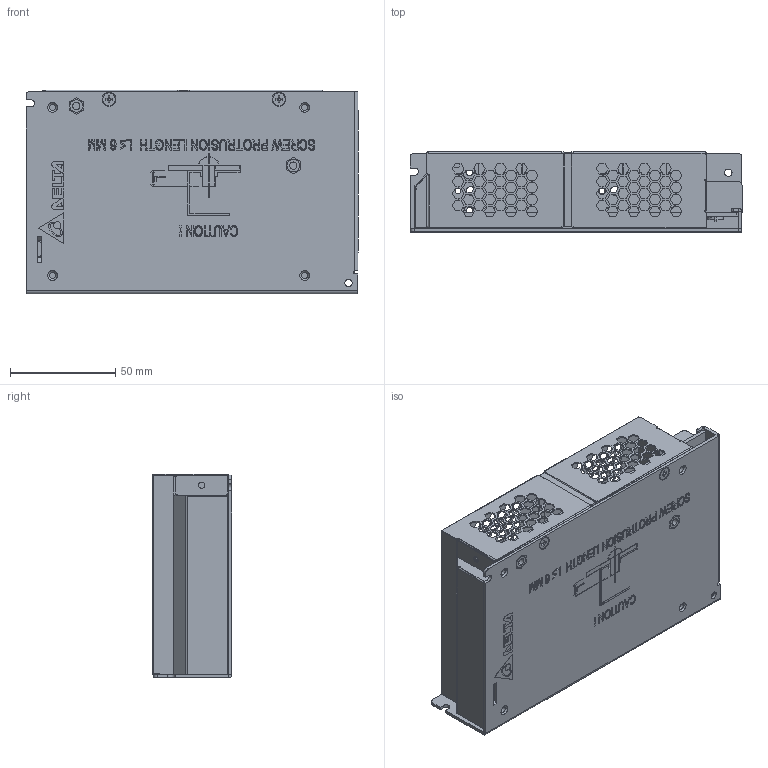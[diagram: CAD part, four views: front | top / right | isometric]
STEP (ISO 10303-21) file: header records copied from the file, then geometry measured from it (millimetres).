
FILE_DESCRIPTION((''),'2;1');
FILE_NAME('PMH-24V100WCCS_ASM_1_ASM','2018-05-28T',('warud'),(''),'PRO/ENGINEER BY PARAMETRIC TECHNOLOGY CORPORATION, 2010180','PRO/ENGINEER BY PARAMETRIC TECHNOLOGY CORPORATION, 2010180','');
FILE_SCHEMA(('CONFIG_CONTROL_DESIGN','SHAPE_APPEARANCE_LAYERS_GROUPS'));
Products named in the file (15): PWB_MAIN_1; 307049757W_A_BODY_1_1; 307049757W_A_SCREW_1_1; 307049757W_ASM_4_ASM_1_ASM; EE_VR550_2_1; EE_LED350_1_1; 3123303900_LED_HOLDER_3_1; ASSY_PWB_PMH-24V100WCCS_ASM_1_ASM; 3105318100_8_1; 330DTXXXXX_CHASSIS_35_1; 330304670103_A_STUD_4_1; 330323340101_ASM_13_ASM_1_ASM; 330300560101_21_1; 3262038604_4_1; PMH-24V100WCCS_ASM_1_ASM
Assembly tree (24 placements, depth 4):
  PMH-24V100WCCS_ASM_1_ASM
    ASSY_PWB_PMH-24V100WCCS_ASM_1_ASM
      PWB_MAIN_1
      307049757W_ASM_4_ASM_1_ASM
        307049757W_A_BODY_1_1
        307049757W_A_SCREW_1_1  x7
      EE_VR550_2_1
      EE_LED350_1_1
      3123303900_LED_HOLDER_3_1
    3105318100_8_1  x4
    330323340101_ASM_13_ASM_1_ASM
      330DTXXXXX_CHASSIS_35_1
      330304670103_A_STUD_4_1  x2
    330300560101_21_1
    3262038604_4_1
Bounding box: 158 x 38.07 x 97 mm (x, y, z)
Volume: 75909.9 mm3; surface area: 127755.3 mm2
Topology: 21 solids, 21 shells, 5780 faces, 16028 edges, 10130 vertices
Faces by surface type: plane 4234, cylinder 595, bspline 428, extrusion 369, cone 124, torus 28, sphere 2
Entity records: 172302 total; most frequent: CARTESIAN_POINT 38913, ORIENTED_EDGE 27620, DIRECTION 22864, EDGE_CURVE 13810, VECTOR 12154, LINE 11785, VERTEX_POINT 8818, EDGE_LOOP 5472
